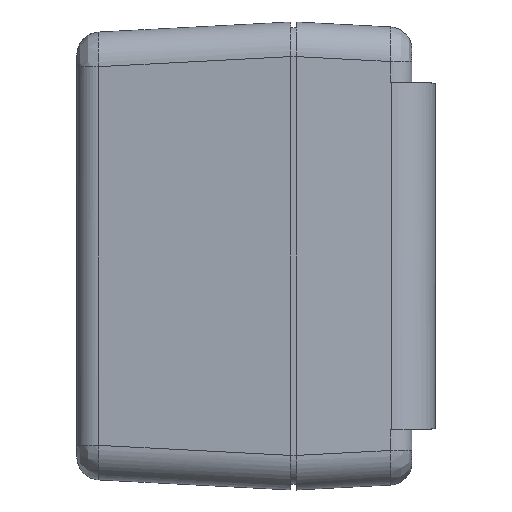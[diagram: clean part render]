
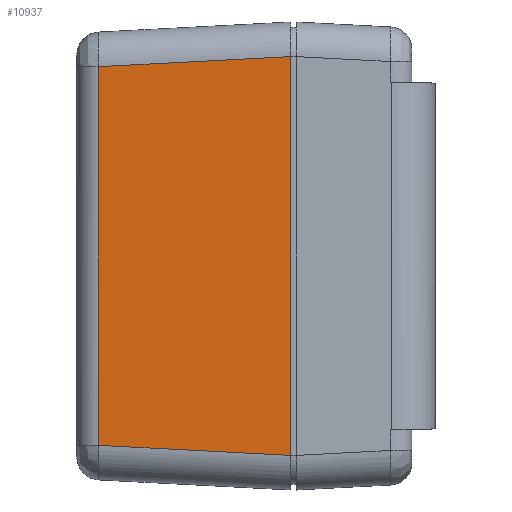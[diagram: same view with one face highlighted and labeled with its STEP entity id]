
A CAD part, left-side view. The second image highlights one B-rep face of the part: STEP entity #10937.
In plain terms, the highlighted planar face has unit normal (-0.999, 0.052, 0) as drawn and (0.999, 0.052, 0) by its records, which use the part's own axes.
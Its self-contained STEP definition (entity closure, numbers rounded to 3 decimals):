
#461 = FACE_OUTER_BOUND ( 'NONE', #13035, .T. ) ;
#692 = LINE ( 'NONE', #4436, #11616 ) ;
#1211 = ORIENTED_EDGE ( 'NONE', *, *, #15477, .F. ) ;
#1418 = VECTOR ( 'NONE', #5034, 1000. ) ;
#1558 = DIRECTION ( 'NONE',  ( 0., 0., -1. ) ) ;
#1826 = PLANE ( 'NONE',  #15972 ) ;
#2318 = ORIENTED_EDGE ( 'NONE', *, *, #17461, .T. ) ;
#2405 = CARTESIAN_POINT ( 'NONE',  ( 30.13, 16.605, 16.384 ) ) ;
#2588 = CARTESIAN_POINT ( 'NONE',  ( 30.13, 16.605, 22.228 ) ) ;
#2871 = ORIENTED_EDGE ( 'NONE', *, *, #13758, .T. ) ;
#3617 = CARTESIAN_POINT ( 'NONE',  ( 30.025, 18.609, -16.279 ) ) ;
#4436 = CARTESIAN_POINT ( 'NONE',  ( 31., 0., 0. ) ) ;
#4563 = VERTEX_POINT ( 'NONE', #10648 ) ;
#4794 = VERTEX_POINT ( 'NONE', #5580 ) ;
#5034 = DIRECTION ( 'NONE',  ( 0.052, -0.997, -0.052 ) ) ;
#5580 = CARTESIAN_POINT ( 'NONE',  ( 30.13, 16.605, 16.384 ) ) ;
#5920 = LINE ( 'NONE', #2405, #18282 ) ;
#6133 = DIRECTION ( 'NONE',  ( 0.999, 0.052, 0. ) ) ;
#8479 = VERTEX_POINT ( 'NONE', #11783 ) ;
#8826 = LINE ( 'NONE', #2588, #13062 ) ;
#10111 = LINE ( 'NONE', #3617, #1418 ) ;
#10175 = CARTESIAN_POINT ( 'NONE',  ( 30.13, 16.605, -16.384 ) ) ;
#10253 = CARTESIAN_POINT ( 'NONE',  ( 31., 0., 22.228 ) ) ;
#10648 = CARTESIAN_POINT ( 'NONE',  ( 31., 0., -17.254 ) ) ;
#10937 = ADVANCED_FACE ( 'NONE', ( #461 ), #1826, .T. ) ;
#11598 = ORIENTED_EDGE ( 'NONE', *, *, #13922, .T. ) ;
#11612 = DIRECTION ( 'NONE',  ( -0.052, 0.999, 0. ) ) ;
#11616 = VECTOR ( 'NONE', #1558, 1000. ) ;
#11783 = CARTESIAN_POINT ( 'NONE',  ( 31., 0., 17.254 ) ) ;
#13035 = EDGE_LOOP ( 'NONE', ( #1211, #11598, #2871, #2318 ) ) ;
#13062 = VECTOR ( 'NONE', #18445, 1000. ) ;
#13758 = EDGE_CURVE ( 'NONE', #4794, #8479, #5920, .T. ) ;
#13922 = EDGE_CURVE ( 'NONE', #16243, #4794, #8826, .T. ) ;
#15477 = EDGE_CURVE ( 'NONE', #16243, #4563, #10111, .T. ) ;
#15972 = AXIS2_PLACEMENT_3D ( 'NONE', #10253, #6133, #11612 ) ;
#16243 = VERTEX_POINT ( 'NONE', #10175 ) ;
#16532 = DIRECTION ( 'NONE',  ( 0.052, -0.997, 0.052 ) ) ;
#17461 = EDGE_CURVE ( 'NONE', #8479, #4563, #692, .T. ) ;
#18282 = VECTOR ( 'NONE', #16532, 1000. ) ;
#18445 = DIRECTION ( 'NONE',  ( 0., 0., 1. ) ) ;
